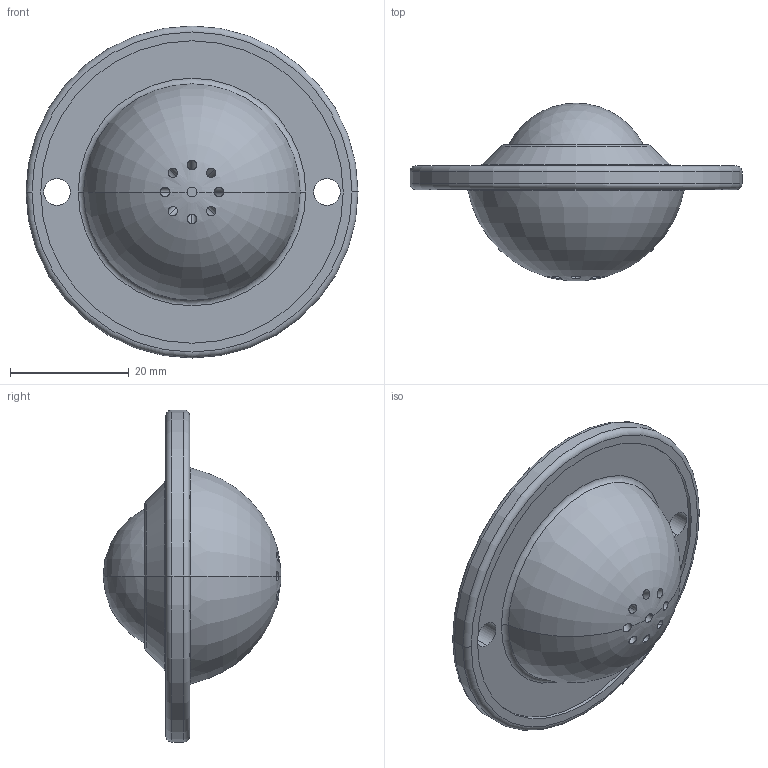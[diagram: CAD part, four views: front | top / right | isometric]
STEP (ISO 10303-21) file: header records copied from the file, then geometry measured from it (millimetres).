
FILE_DESCRIPTION (( 'STEP AP203' ), '1' );
FILE_NAME ('PV50UH.STEP', '2021-10-08T04:37:47', ( '' ), ( '' ), 'SwSTEP 2.0', 'SolidWorks 2013', '' );
FILE_SCHEMA (( 'CONFIG_CONTROL_DESIGN' ));
Length unit declared in the file: millimetre
Products named in the file (1): PV50UH
Bounding box: 56 x 29.98 x 56 mm (x, y, z)
Volume: 22829.5 mm3; surface area: 6899.8 mm2
Topology: 1 solids, 1 shells, 55 faces, 114 edges, 71 vertices
Faces by surface type: cylinder 26, plane 13, torus 12, cone 2, sphere 2
Entity records: 1759 total; most frequent: CARTESIAN_POINT 469, DIRECTION 280, ORIENTED_EDGE 228, AXIS2_PLACEMENT_3D 126, EDGE_CURVE 114, VERTEX_POINT 71, CIRCLE 70, EDGE_LOOP 69
